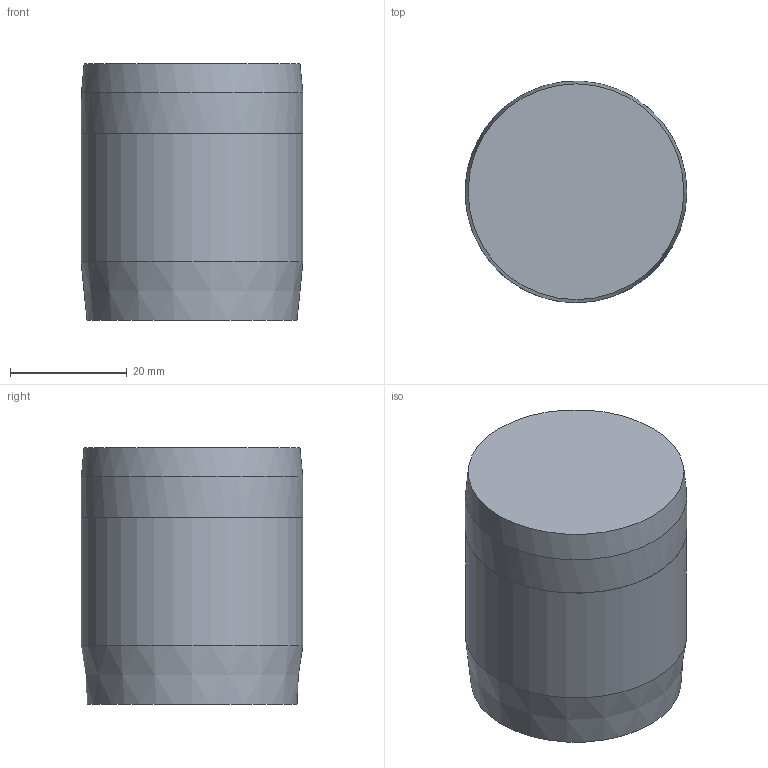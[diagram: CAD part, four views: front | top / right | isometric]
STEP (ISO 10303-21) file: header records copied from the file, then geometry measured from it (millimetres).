
FILE_DESCRIPTION(/* description */ ('STEP AP242','CAx-IF Rec.Pracs.---Representation and Presentation of Product Manufacturing Information (PMI)---4.0---2014-10-13','CAx-IF Rec.Pracs.---3D Tessellated Geometry---0.4---2014-09-14','2;1'),/* implementation_level */ '2;1');
FILE_NAME(/* name */ '65e62a98efb7b830c8f2990c',/* time_stamp */ '2024-03-04T20:10:01Z',/* author */ (''),/* organization */ (''),/* preprocessor_version */ 'ST-DEVELOPER v19.4',/* originating_system */ ' ',/* authorisation */ ' ');
FILE_SCHEMA (('AP242_MANAGED_MODEL_BASED_3D_ENGINEERING_MIM_LF { 1 0 10303 442 1 1 4 }'));
Length unit declared in the file: metre
Products named in the file (2): Part 1; Part 2
Bounding box: 38 x 38 x 44 mm (x, y, z)
Volume: 23292.9 mm3; surface area: 15792.1 mm2
Topology: 2 solids, 2 shells, 48 faces, 122 edges, 81 vertices
Faces by surface type: bspline 24, cylinder 11, plane 7, cone 6
Full cylindrical faces by diameter (mm): 30 x1, 38 x2
Entity records: 3736 total; most frequent: CARTESIAN_POINT 2826, ORIENTED_EDGE 232, EDGE_CURVE 116, DIRECTION 108, VERTEX_POINT 80, B_SPLINE_CURVE_WITH_KNOTS 56, EDGE_LOOP 56, FACE_BOUND 56
